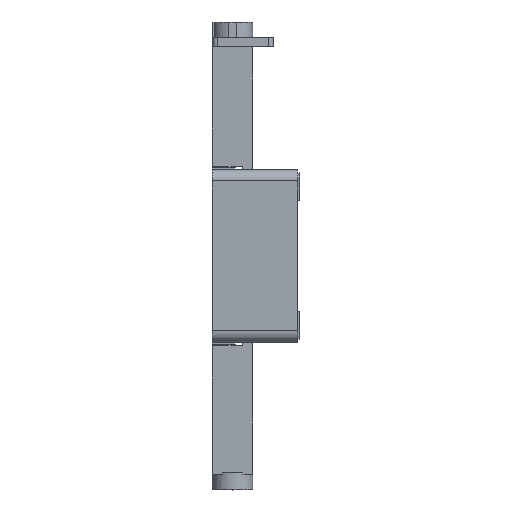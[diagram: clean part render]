
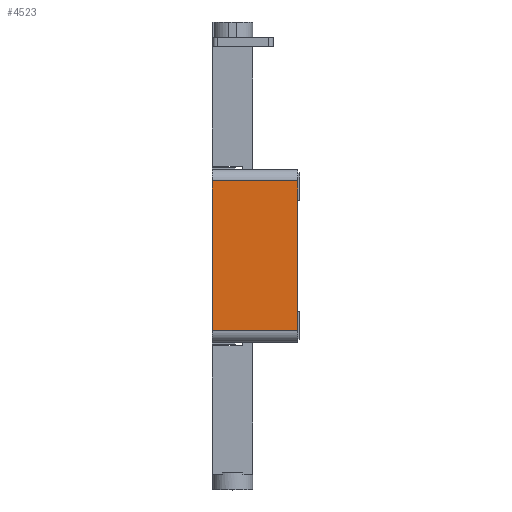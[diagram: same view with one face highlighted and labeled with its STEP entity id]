
A CAD part, top view. The second image highlights one B-rep face of the part: STEP entity #4523.
In plain terms, the highlighted planar face has unit normal (0, 0, 1) as drawn and (0, 1, 0) by its records, which use the part's own axes.
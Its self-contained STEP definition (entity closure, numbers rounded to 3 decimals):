
#1523 = PLANE('',#1524);
#1524 = AXIS2_PLACEMENT_3D('',#1525,#1526,#1527);
#1525 = CARTESIAN_POINT('',(0.,0.,15.8)
  );
#1526 = DIRECTION('',(0.,0.,1.));
#1527 = DIRECTION('',(1.,0.,-0.));
#1693 = VERTEX_POINT('',#1694);
#1694 = CARTESIAN_POINT('',(13.,14.,15.8));
#1709 = CYLINDRICAL_SURFACE('',#1710,2.);
#1710 = AXIS2_PLACEMENT_3D('',#1711,#1712,#1713);
#1711 = CARTESIAN_POINT('',(13.,12.,1.));
#1712 = DIRECTION('',(-0.,-0.,-1.));
#1713 = DIRECTION('',(1.,0.,0.));
#1721 = EDGE_CURVE('',#1722,#1693,#1724,.T.);
#1722 = VERTEX_POINT('',#1723);
#1723 = CARTESIAN_POINT('',(-13.,14.,15.8));
#1724 = SURFACE_CURVE('',#1725,(#1729,#1736),.PCURVE_S1.);
#1725 = LINE('',#1726,#1727);
#1726 = CARTESIAN_POINT('',(0.,14.,15.8));
#1727 = VECTOR('',#1728,1.);
#1728 = DIRECTION('',(1.,0.,0.));
#1729 = PCURVE('',#1523,#1730);
#1730 = DEFINITIONAL_REPRESENTATION('',(#1731),#1735);
#1731 = LINE('',#1732,#1733);
#1732 = CARTESIAN_POINT('',(0.,14.));
#1733 = VECTOR('',#1734,1.);
#1734 = DIRECTION('',(1.,0.));
#1735 = ( GEOMETRIC_REPRESENTATION_CONTEXT(2) 
PARAMETRIC_REPRESENTATION_CONTEXT() REPRESENTATION_CONTEXT('2D SPACE',''
  ) );
#1736 = PCURVE('',#1737,#1742);
#1737 = PLANE('',#1738);
#1738 = AXIS2_PLACEMENT_3D('',#1739,#1740,#1741);
#1739 = CARTESIAN_POINT('',(-13.,14.,1.));
#1740 = DIRECTION('',(0.,1.,0.));
#1741 = DIRECTION('',(1.,0.,0.));
#1742 = DEFINITIONAL_REPRESENTATION('',(#1743),#1747);
#1743 = LINE('',#1744,#1745);
#1744 = CARTESIAN_POINT('',(13.,-14.8));
#1745 = VECTOR('',#1746,1.);
#1746 = DIRECTION('',(1.,0.));
#1747 = ( GEOMETRIC_REPRESENTATION_CONTEXT(2) 
PARAMETRIC_REPRESENTATION_CONTEXT() REPRESENTATION_CONTEXT('2D SPACE',''
  ) );
#1764 = CYLINDRICAL_SURFACE('',#1765,2.);
#1765 = AXIS2_PLACEMENT_3D('',#1766,#1767,#1768);
#1766 = CARTESIAN_POINT('',(-13.,12.,1.));
#1767 = DIRECTION('',(-0.,-0.,-1.));
#1768 = DIRECTION('',(1.,0.,0.));
#2742 = PLANE('',#2743);
#2743 = AXIS2_PLACEMENT_3D('',#2744,#2745,#2746);
#2744 = CARTESIAN_POINT('',(0.,0.,1.));
#2745 = DIRECTION('',(0.,0.,1.));
#2746 = DIRECTION('',(1.,0.,-0.));
#2978 = VERTEX_POINT('',#2979);
#2979 = CARTESIAN_POINT('',(13.,14.,1.));
#3001 = EDGE_CURVE('',#3002,#2978,#3004,.T.);
#3002 = VERTEX_POINT('',#3003);
#3003 = CARTESIAN_POINT('',(-13.,14.,1.));
#3004 = SURFACE_CURVE('',#3005,(#3009,#3016),.PCURVE_S1.);
#3005 = LINE('',#3006,#3007);
#3006 = CARTESIAN_POINT('',(0.,14.,1.));
#3007 = VECTOR('',#3008,1.);
#3008 = DIRECTION('',(1.,0.,0.));
#3009 = PCURVE('',#2742,#3010);
#3010 = DEFINITIONAL_REPRESENTATION('',(#3011),#3015);
#3011 = LINE('',#3012,#3013);
#3012 = CARTESIAN_POINT('',(0.,14.));
#3013 = VECTOR('',#3014,1.);
#3014 = DIRECTION('',(1.,0.));
#3015 = ( GEOMETRIC_REPRESENTATION_CONTEXT(2) 
PARAMETRIC_REPRESENTATION_CONTEXT() REPRESENTATION_CONTEXT('2D SPACE',''
  ) );
#3016 = PCURVE('',#1737,#3017);
#3017 = DEFINITIONAL_REPRESENTATION('',(#3018),#3022);
#3018 = LINE('',#3019,#3020);
#3019 = CARTESIAN_POINT('',(13.,0.));
#3020 = VECTOR('',#3021,1.);
#3021 = DIRECTION('',(1.,0.));
#3022 = ( GEOMETRIC_REPRESENTATION_CONTEXT(2) 
PARAMETRIC_REPRESENTATION_CONTEXT() REPRESENTATION_CONTEXT('2D SPACE',''
  ) );
#4502 = EDGE_CURVE('',#2978,#1693,#4503,.T.);
#4503 = SURFACE_CURVE('',#4504,(#4508,#4515),.PCURVE_S1.);
#4504 = LINE('',#4505,#4506);
#4505 = CARTESIAN_POINT('',(13.,14.,1.));
#4506 = VECTOR('',#4507,1.);
#4507 = DIRECTION('',(0.,0.,1.));
#4508 = PCURVE('',#1709,#4509);
#4509 = DEFINITIONAL_REPRESENTATION('',(#4510),#4514);
#4510 = LINE('',#4511,#4512);
#4511 = CARTESIAN_POINT('',(-1.571,0.));
#4512 = VECTOR('',#4513,1.);
#4513 = DIRECTION('',(-0.,-1.));
#4514 = ( GEOMETRIC_REPRESENTATION_CONTEXT(2) 
PARAMETRIC_REPRESENTATION_CONTEXT() REPRESENTATION_CONTEXT('2D SPACE',''
  ) );
#4515 = PCURVE('',#1737,#4516);
#4516 = DEFINITIONAL_REPRESENTATION('',(#4517),#4521);
#4517 = LINE('',#4518,#4519);
#4518 = CARTESIAN_POINT('',(26.,0.));
#4519 = VECTOR('',#4520,1.);
#4520 = DIRECTION('',(0.,-1.));
#4521 = ( GEOMETRIC_REPRESENTATION_CONTEXT(2) 
PARAMETRIC_REPRESENTATION_CONTEXT() REPRESENTATION_CONTEXT('2D SPACE',''
  ) );
#4523 = ADVANCED_FACE('',(#4524),#1737,.T.);
#4524 = FACE_BOUND('',#4525,.T.);
#4525 = EDGE_LOOP('',(#4526,#4547,#4548,#4549));
#4526 = ORIENTED_EDGE('',*,*,#4527,.T.);
#4527 = EDGE_CURVE('',#3002,#1722,#4528,.T.);
#4528 = SURFACE_CURVE('',#4529,(#4533,#4540),.PCURVE_S1.);
#4529 = LINE('',#4530,#4531);
#4530 = CARTESIAN_POINT('',(-13.,14.,1.));
#4531 = VECTOR('',#4532,1.);
#4532 = DIRECTION('',(0.,0.,1.));
#4533 = PCURVE('',#1737,#4534);
#4534 = DEFINITIONAL_REPRESENTATION('',(#4535),#4539);
#4535 = LINE('',#4536,#4537);
#4536 = CARTESIAN_POINT('',(0.,0.));
#4537 = VECTOR('',#4538,1.);
#4538 = DIRECTION('',(0.,-1.));
#4539 = ( GEOMETRIC_REPRESENTATION_CONTEXT(2) 
PARAMETRIC_REPRESENTATION_CONTEXT() REPRESENTATION_CONTEXT('2D SPACE',''
  ) );
#4540 = PCURVE('',#1764,#4541);
#4541 = DEFINITIONAL_REPRESENTATION('',(#4542),#4546);
#4542 = LINE('',#4543,#4544);
#4543 = CARTESIAN_POINT('',(-1.571,0.));
#4544 = VECTOR('',#4545,1.);
#4545 = DIRECTION('',(-0.,-1.));
#4546 = ( GEOMETRIC_REPRESENTATION_CONTEXT(2) 
PARAMETRIC_REPRESENTATION_CONTEXT() REPRESENTATION_CONTEXT('2D SPACE',''
  ) );
#4547 = ORIENTED_EDGE('',*,*,#1721,.T.);
#4548 = ORIENTED_EDGE('',*,*,#4502,.F.);
#4549 = ORIENTED_EDGE('',*,*,#3001,.F.);
